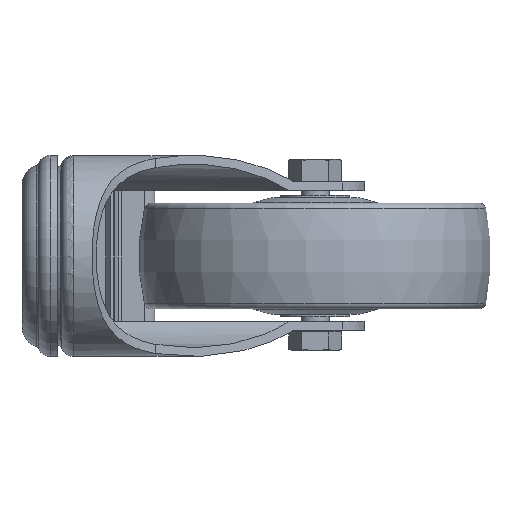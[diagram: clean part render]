
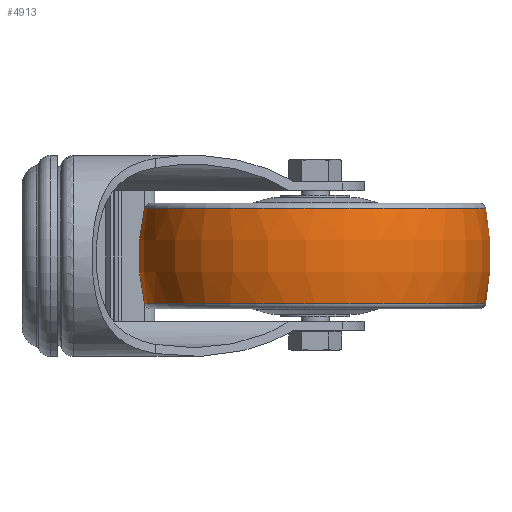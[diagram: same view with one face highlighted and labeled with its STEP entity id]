
A CAD part, left-side view. The second image highlights one B-rep face of the part: STEP entity #4913.
In plain terms, the highlighted toroidal (fillet/blend) face has major radius 7.25 mm and minor radius 57.25 mm.
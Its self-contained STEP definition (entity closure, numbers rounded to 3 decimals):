
#880=DEGENERATE_TOROIDAL_SURFACE('',#5302,7.25,57.25,.F.);
#1189=ORIENTED_EDGE('',*,*,#2616,.T.);
#1190=ORIENTED_EDGE('',*,*,#2615,.F.);
#2615=EDGE_CURVE('',#3339,#3339,#3835,.T.);
#2616=EDGE_CURVE('',#3340,#3340,#3836,.T.);
#3339=VERTEX_POINT('',#7399);
#3340=VERTEX_POINT('',#7402);
#3835=CIRCLE('',#5301,48.393);
#3836=CIRCLE('',#5303,48.393);
#4090=EDGE_LOOP('',(#1189));
#4091=EDGE_LOOP('',(#1190));
#4476=FACE_BOUND('',#4090,.T.);
#4477=FACE_BOUND('',#4091,.T.);
#4913=ADVANCED_FACE('',(#4476,#4477),#880,.F.);
#5301=AXIS2_PLACEMENT_3D('',#7398,#5916,#5917);
#5302=AXIS2_PLACEMENT_3D('',#7400,#5918,#5919);
#5303=AXIS2_PLACEMENT_3D('',#7401,#5920,#5921);
#5916=DIRECTION('',(1.,0.,0.));
#5917=DIRECTION('',(0.,0.,-1.));
#5918=DIRECTION('',(1.,0.,0.));
#5919=DIRECTION('',(0.,0.,-1.));
#5920=DIRECTION('',(1.,0.,0.));
#5921=DIRECTION('',(0.,0.,-1.));
#7398=CARTESIAN_POINT('',(13.471,0.,0.));
#7399=CARTESIAN_POINT('',(13.471,0.,-48.393));
#7400=CARTESIAN_POINT('',(0.,0.,0.));
#7401=CARTESIAN_POINT('',(-13.471,0.,0.));
#7402=CARTESIAN_POINT('',(-13.471,0.,-48.393));
